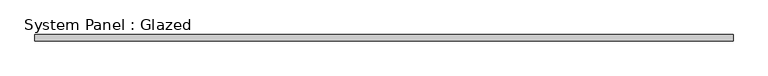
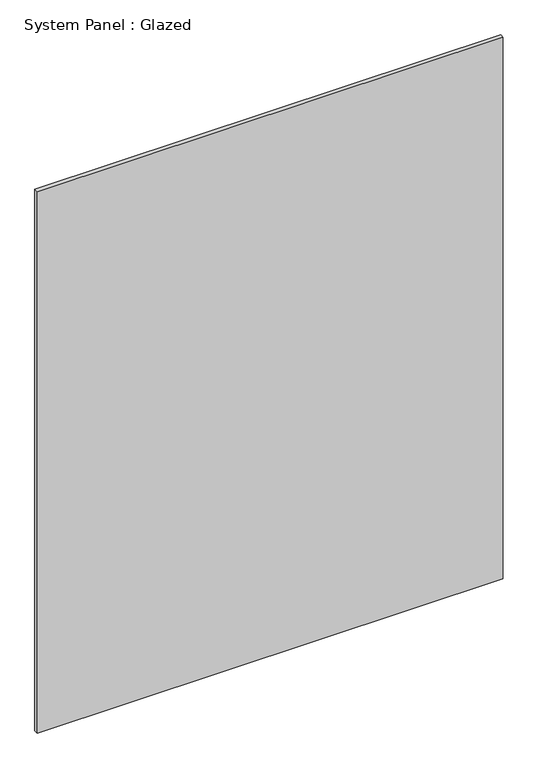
"""IFC4 building model written with IfcOpenShell, lengths in millimetres: plate geometry, System Panel : Glazed."""

from ifc_helpers import new_model, si_unit, origin, origin_with_axes, place, context, project, spatial, polyline, outline, extrude, source, transform, mapped, element, save


def system_panel_glazed_4e3138d7(model_context):
    return source(origin(), model_context, "Body", "SweptSolid", [
        extrude(outline(polyline([(1424.9446552, 24.5), (-1424.9446552, 24.5), (-1424.9446552, 49.5), (1424.9446552, 49.5), (1424.9446552, 24.5)])), origin_with_axes(), (0.0, 0.0, 1.0), 3500.0),
    ])


if __name__ == "__main__":
    model = new_model("IFC4")
    model_context = context("Model", 3, world=origin())
    ifc_project = project(units=[si_unit("LENGTHUNIT", "METRE", prefix="MILLI")], contexts=[model_context])
    site = spatial("IfcSite", under=ifc_project)
    building = spatial("IfcBuilding", under=site)
    placement = place(None, origin())
    system_panel_glazed_shape = system_panel_glazed_4e3138d7(model_context)
    element("IfcPlate", 1, ObjectType="System Panel : Glazed", at=placement, inside=building, context=model_context, shape_type="MappedRepresentation", body=[
        mapped(system_panel_glazed_shape, transform((0.0, 0.0, 0.0), x_axis=(1.0, 0.0, 0.0), y_axis=(0.0, 1.0, 0.0), z_axis=(0.0, 0.0, 1.0))),
    ])
    save(model, "model.ifc")
